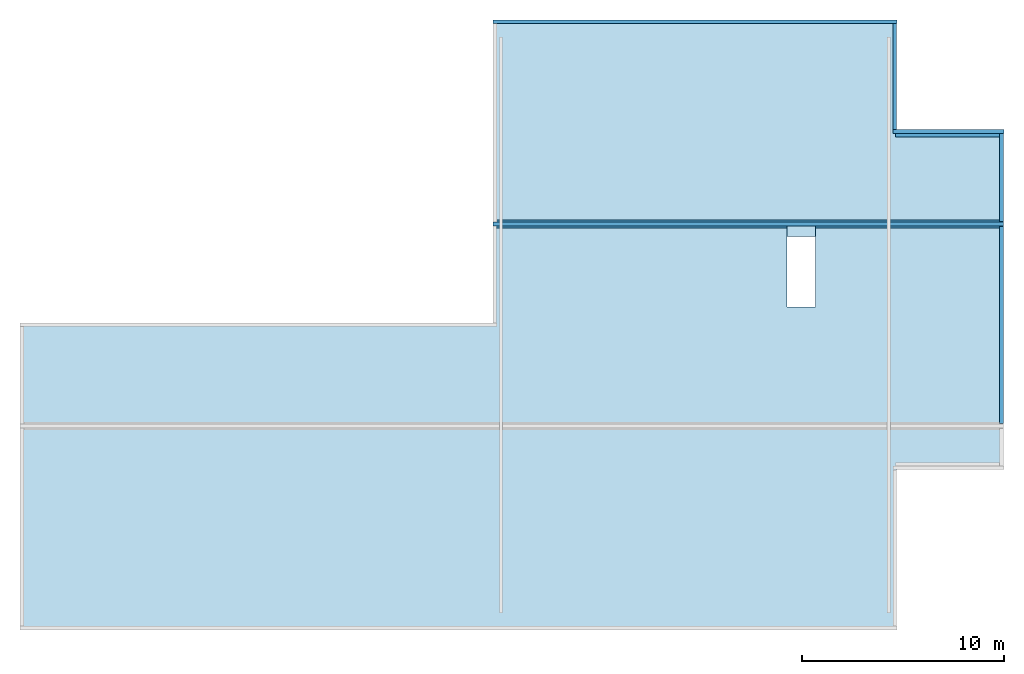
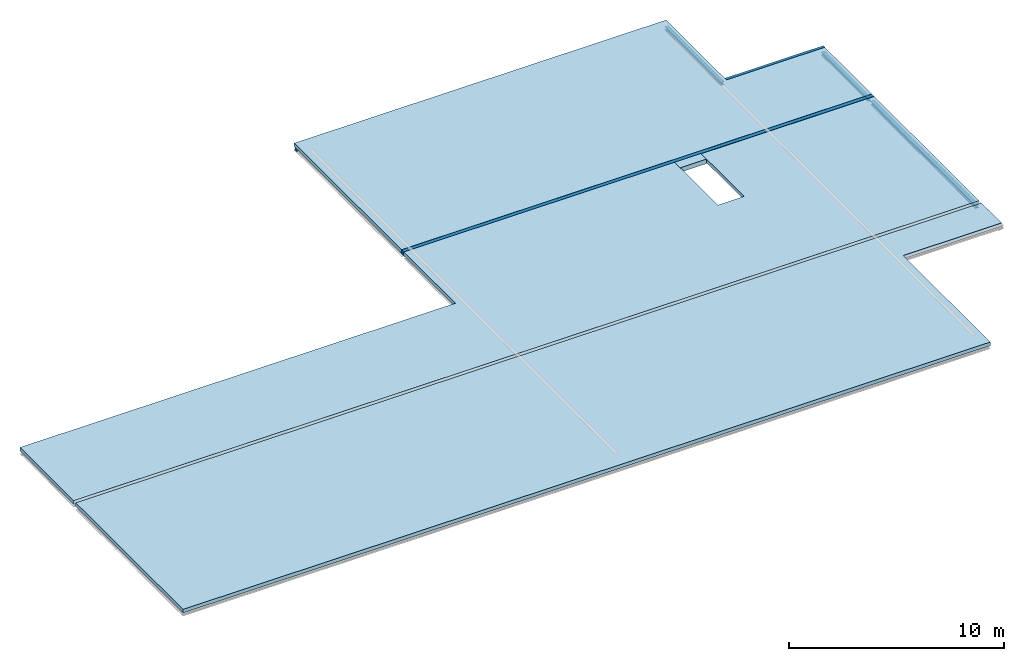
# One storey, part 2 of 2: 6 beams, 4 slabs.
"""IFC2X3 building model written with IfcOpenShell, lengths in millimetres."""

from ifc_helpers import new_model, entity, si_unit, converted_unit, derived_unit, direction, frame, frame_2d, origin, origin_2d_with_axis, place, context, subcontext, project, spatial, polyline, circle_curve, parameter, trimmed, segment, composite_curve, rectangle, i_section, outline, extrude, boolean, source, transform, mapped, material, layer, layer_set, layer_usage, type_object, type_shapes, element, save


model = new_model("IFC2X3")

# Units and contexts
model_context = context("Model", 3, precision=0.01, world=origin(), true_north=direction((6.123031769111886e-17, 1.0)))
body_context = subcontext(model_context, "Body", "Model", "MODEL_VIEW")
ifc_project = project(units=[si_unit("LENGTHUNIT", "METRE", prefix="MILLI"), si_unit("AREAUNIT", "SQUARE_METRE"), si_unit("VOLUMEUNIT", "CUBIC_METRE"), converted_unit("PLANEANGLEUNIT", "DEGREE", entity("IfcPlaneAngleMeasure", 0.017453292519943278), si_unit("PLANEANGLEUNIT", "RADIAN"), dimensions=[0, 0, 0, 0, 0, 0, 0]), si_unit("MASSUNIT", "GRAM", prefix="KILO"), derived_unit("MASSDENSITYUNIT", [(si_unit("MASSUNIT", "GRAM", prefix="KILO"), 1), (si_unit("LENGTHUNIT", "METRE"), -3)]), derived_unit("IONCONCENTRATIONUNIT", [(si_unit("MASSUNIT", "GRAM", prefix="KILO"), 1), (si_unit("LENGTHUNIT", "METRE"), -3)]), derived_unit("MOMENTOFINERTIAUNIT", [(si_unit("LENGTHUNIT", "METRE"), 4)]), si_unit("TIMEUNIT", "SECOND"), si_unit("FREQUENCYUNIT", "HERTZ"), si_unit("THERMODYNAMICTEMPERATUREUNIT", "DEGREE_CELSIUS"), derived_unit("THERMALTRANSMITTANCEUNIT", [(si_unit("MASSUNIT", "GRAM", prefix="KILO"), 1), (si_unit("THERMODYNAMICTEMPERATUREUNIT", "KELVIN"), -1), (si_unit("TIMEUNIT", "SECOND"), -3)]), derived_unit("THERMALCONDUCTANCEUNIT", [(si_unit("MASSUNIT", "GRAM", prefix="KILO"), 1), (si_unit("THERMODYNAMICTEMPERATUREUNIT", "KELVIN"), -1), (si_unit("TIMEUNIT", "SECOND"), -3), (si_unit("LENGTHUNIT", "METRE"), 1)]), derived_unit("VOLUMETRICFLOWRATEUNIT", [(si_unit("LENGTHUNIT", "METRE", prefix="DECI"), 3), (si_unit("TIMEUNIT", "SECOND"), -1)]), derived_unit("MASSFLOWRATEUNIT", [(si_unit("MASSUNIT", "GRAM", prefix="KILO"), 1), (si_unit("TIMEUNIT", "SECOND"), -1)]), derived_unit("ROTATIONALFREQUENCYUNIT", [(si_unit("TIMEUNIT", "SECOND"), -1)]), si_unit("ELECTRICCURRENTUNIT", "AMPERE"), si_unit("ELECTRICVOLTAGEUNIT", "VOLT"), si_unit("POWERUNIT", "WATT"), si_unit("FORCEUNIT", "NEWTON", prefix="KILO"), si_unit("ILLUMINANCEUNIT", "LUX"), si_unit("LUMINOUSFLUXUNIT", "LUMEN"), si_unit("LUMINOUSINTENSITYUNIT", "CANDELA"), si_unit("ENERGYUNIT", "JOULE"), derived_unit("USERDEFINED", [(si_unit("MASSUNIT", "GRAM", prefix="KILO"), -1), (si_unit("LENGTHUNIT", "METRE"), -2), (si_unit("TIMEUNIT", "SECOND"), 3), (si_unit("LUMINOUSFLUXUNIT", "LUMEN"), 1)]), derived_unit("USERDEFINED", [(si_unit("MASSUNIT", "GRAM", prefix="KILO"), 1), (si_unit("TIMEUNIT", "SECOND"), -3), (si_unit("LENGTHUNIT", "METRE"), 3), (si_unit("ELECTRICCURRENTUNIT", "AMPERE"), -2)]), derived_unit("SOUNDPOWERUNIT", [(si_unit("MASSUNIT", "GRAM", prefix="KILO"), 1), (si_unit("TIMEUNIT", "SECOND"), -3), (si_unit("LENGTHUNIT", "METRE"), 2)]), derived_unit("SOUNDPRESSUREUNIT", [(si_unit("MASSUNIT", "GRAM", prefix="KILO"), 1), (si_unit("LENGTHUNIT", "METRE"), -1), (si_unit("TIMEUNIT", "SECOND"), -2)]), derived_unit("LINEARVELOCITYUNIT", [(si_unit("LENGTHUNIT", "METRE"), 1), (si_unit("TIMEUNIT", "SECOND"), -1)]), si_unit("PRESSUREUNIT", "PASCAL"), derived_unit("USERDEFINED", [(si_unit("MASSUNIT", "GRAM", prefix="KILO"), 1), (si_unit("LENGTHUNIT", "METRE"), -2), (si_unit("TIMEUNIT", "SECOND"), -2)]), derived_unit("LINEARFORCEUNIT", [(si_unit("MASSUNIT", "GRAM", prefix="KILO"), 1), (si_unit("TIMEUNIT", "SECOND"), -2)]), derived_unit("PLANARFORCEUNIT", [(si_unit("MASSUNIT", "GRAM", prefix="KILO"), 1), (si_unit("LENGTHUNIT", "METRE"), -1), (si_unit("TIMEUNIT", "SECOND"), -2)]), derived_unit("SPECIFICHEATCAPACITYUNIT", [(si_unit("THERMODYNAMICTEMPERATUREUNIT", "KELVIN"), -1), (si_unit("LENGTHUNIT", "METRE"), 2), (si_unit("TIMEUNIT", "SECOND"), -2)]), derived_unit("HEATFLUXDENSITYUNIT", [(si_unit("MASSUNIT", "GRAM", prefix="KILO"), 1), (si_unit("TIMEUNIT", "SECOND"), -3)]), derived_unit("HEATINGVALUEUNIT", [(si_unit("LENGTHUNIT", "METRE"), 2), (si_unit("TIMEUNIT", "SECOND"), -2)]), derived_unit("VAPORPERMEABILITYUNIT", [(si_unit("LENGTHUNIT", "METRE"), -1), (si_unit("TIMEUNIT", "SECOND"), 1)]), derived_unit("DYNAMICVISCOSITYUNIT", [(si_unit("MASSUNIT", "GRAM", prefix="KILO"), 1), (si_unit("TIMEUNIT", "SECOND"), -1), (si_unit("LENGTHUNIT", "METRE"), -1)]), derived_unit("THERMALEXPANSIONCOEFFICIENTUNIT", [(si_unit("THERMODYNAMICTEMPERATUREUNIT", "KELVIN"), -1)]), derived_unit("MODULUSOFELASTICITYUNIT", [(si_unit("MASSUNIT", "GRAM", prefix="KILO"), 1), (si_unit("LENGTHUNIT", "METRE"), -1), (si_unit("TIMEUNIT", "SECOND"), -2)]), derived_unit("ISOTHERMALMOISTURECAPACITYUNIT", [(si_unit("MASSUNIT", "GRAM", prefix="KILO"), -1), (si_unit("LENGTHUNIT", "METRE"), 3)]), derived_unit("MOISTUREDIFFUSIVITYUNIT", [(si_unit("TIMEUNIT", "SECOND"), -1), (si_unit("LENGTHUNIT", "METRE"), 2)]), derived_unit("MASSPERLENGTHUNIT", [(si_unit("MASSUNIT", "GRAM", prefix="KILO"), 1), (si_unit("LENGTHUNIT", "METRE"), -1)]), derived_unit("THERMALRESISTANCEUNIT", [(si_unit("MASSUNIT", "GRAM", prefix="KILO"), -1), (si_unit("TIMEUNIT", "SECOND"), 3), (si_unit("THERMODYNAMICTEMPERATUREUNIT", "KELVIN"), 1)]), derived_unit("ACCELERATIONUNIT", [(si_unit("LENGTHUNIT", "METRE"), 1), (si_unit("TIMEUNIT", "SECOND"), -2)]), derived_unit("ANGULARVELOCITYUNIT", [(si_unit("TIMEUNIT", "SECOND"), -1), (si_unit("PLANEANGLEUNIT", "RADIAN"), 1)]), derived_unit("LINEARSTIFFNESSUNIT", [(si_unit("MASSUNIT", "GRAM", prefix="KILO"), 1), (si_unit("TIMEUNIT", "SECOND"), -2)]), derived_unit("WARPINGCONSTANTUNIT", [(si_unit("LENGTHUNIT", "METRE"), 6)]), derived_unit("LINEARMOMENTUNIT", [(si_unit("MASSUNIT", "GRAM", prefix="KILO"), 1), (si_unit("LENGTHUNIT", "METRE"), 1), (si_unit("TIMEUNIT", "SECOND"), -2)]), derived_unit("TORQUEUNIT", [(si_unit("MASSUNIT", "GRAM", prefix="KILO"), 1), (si_unit("LENGTHUNIT", "METRE"), 2), (si_unit("TIMEUNIT", "SECOND"), -2)])], contexts=[model_context])

# Site, building, storey
site_placement = place(None, origin())
site = spatial("IfcSite", under=ifc_project, at=site_placement, Name="Default", CompositionType="ELEMENT")
building_placement = place(site_placement, origin())
building = spatial("IfcBuilding", under=site, at=building_placement, CompositionType="ELEMENT")
storey_placement = place(building_placement, frame((0.0, 0.0, 7750.0)))
storey = spatial("IfcBuildingStorey", under=building, at=storey_placement, Name="02 tweede verdieping", CompositionType="ELEMENT", Elevation=7750.0)

# Beams
ifc_material_1 = material(Name="VRI_staal")
beam_type_1 = type_object("IfcBeamType", Name="28_SFR_VRI_balk_staal_H:HEB180", PredefinedType="NOTDEFINED")
beam_1_placement = place(storey_placement, frame((33400.0, 40000.0, -205.0)))
element("IfcBeam", 1, at=beam_1_placement, inside=storey, type_object=beam_type_1, material=ifc_material_1, Name="28_SFR_VRI_balk_staal_H:HEB180", ObjectType="28_SFR_VRI_balk_staal_H:HEB180", context=body_context, shape_type="SweptSolid", body=[
    extrude(outline(composite_curve([segment(polyline([(76.0, -90.0), (90.0, -90.0)]), True, "CONTINUOUS"), segment(polyline([(90.0, -90.0), (90.0, 90.0)]), True, "CONTINUOUS"), segment(polyline([(90.0, 90.0), (76.0, 90.0)]), True, "CONTINUOUS"), segment(polyline([(76.0, 90.0), (76.0, 19.249999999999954)]), True, "CONTINUOUS"), segment(trimmed(circle_curve(frame_2d((61.0, 19.249999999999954), x_axis=(1.0, 0.0)), 14.999999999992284), [parameter(269.99999999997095)], [parameter(0.0)], True, "PARAMETER"), False, "CONTINUOUS"), segment(polyline([(61.0, 4.249999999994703), (-61.0, 4.249999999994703)]), True, "CONTINUOUS"), segment(trimmed(circle_curve(frame_2d((-61.0, 19.249999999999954), x_axis=(0.0, -1.0)), 14.999999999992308), [parameter(269.99999999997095)], [parameter(0.0)], True, "PARAMETER"), False, "CONTINUOUS"), segment(polyline([(-76.0, 19.249999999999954), (-76.0, 90.0)]), True, "CONTINUOUS"), segment(polyline([(-76.0, 90.0), (-90.0, 90.0)]), True, "CONTINUOUS"), segment(polyline([(-90.0, 90.0), (-90.0, -90.0)]), True, "CONTINUOUS"), segment(polyline([(-90.0, -90.0), (-76.0, -90.0)]), True, "CONTINUOUS"), segment(polyline([(-76.0, -90.0), (-76.0, -19.249999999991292)]), True, "CONTINUOUS"), segment(trimmed(circle_curve(frame_2d((-61.0, -19.249999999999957), x_axis=(-1.0, 0.0)), 14.9999999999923), [parameter(269.99999999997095)], [parameter(0.0)], True, "PARAMETER"), False, "CONTINUOUS"), segment(polyline([(-61.0, -4.250000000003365), (61.0, -4.250000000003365)]), True, "CONTINUOUS"), segment(trimmed(circle_curve(frame_2d((61.0, -19.249999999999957), x_axis=(0.0, 1.0)), 14.999999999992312), [parameter(269.99999999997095)], [parameter(0.0)], True, "PARAMETER"), False, "CONTINUOUS"), segment(polyline([(76.0, -19.249999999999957), (76.0, -90.0)]), True, "CONTINUOUS")], self_intersect=False)), frame((-100.0, 0.0, -90.0), z_axis=(1.0, 0.0, 0.0), x_axis=(0.0, 0.0, -1.0)), (0.0, 0.0, 1.0), 20000.0),
])
beam_2_placement = place(storey_placement, frame((58475.0, 30000.0, -205.0), z_axis=(0.0, 0.0, 1.0), x_axis=(0.0, 1.0, 0.0)))
element("IfcBeam", 2, at=beam_2_placement, inside=storey, type_object=beam_type_1, material=ifc_material_1, Name="28_SFR_VRI_balk_staal_H:HEB180", ObjectType="28_SFR_VRI_balk_staal_H:HEB180", context=body_context, shape_type="SweptSolid", body=[
    extrude(outline(composite_curve([segment(polyline([(76.0, -90.0), (90.0, -90.0)]), True, "CONTINUOUS"), segment(polyline([(90.0, -90.0), (90.0, 90.0)]), True, "CONTINUOUS"), segment(polyline([(90.0, 90.0), (76.0, 90.0)]), True, "CONTINUOUS"), segment(polyline([(76.0, 90.0), (76.0, 19.24999999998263)]), True, "CONTINUOUS"), segment(trimmed(circle_curve(frame_2d((61.0, 19.24999999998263), x_axis=(1.0, 0.0)), 14.999999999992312), [parameter(269.99999999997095)], [parameter(0.0)], True, "PARAMETER"), False, "CONTINUOUS"), segment(polyline([(61.0, 4.249999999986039), (-61.0, 4.249999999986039)]), True, "CONTINUOUS"), segment(trimmed(circle_curve(frame_2d((-61.0, 19.24999999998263), x_axis=(0.0, -1.0)), 14.9999999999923), [parameter(269.99999999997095)], [parameter(0.0)], True, "PARAMETER"), False, "CONTINUOUS"), segment(polyline([(-76.0, 19.24999999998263), (-76.0, 90.0)]), True, "CONTINUOUS"), segment(polyline([(-76.0, 90.0), (-90.0, 90.0)]), True, "CONTINUOUS"), segment(polyline([(-90.0, 90.0), (-90.0, -90.0)]), True, "CONTINUOUS"), segment(polyline([(-90.0, -90.0), (-76.0, -90.0)]), True, "CONTINUOUS"), segment(polyline([(-76.0, -90.0), (-76.0, -19.25000000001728)]), True, "CONTINUOUS"), segment(trimmed(circle_curve(frame_2d((-61.0, -19.25000000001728), x_axis=(-1.0, 0.0)), 14.999999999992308), [parameter(269.99999999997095)], [parameter(0.0)], True, "PARAMETER"), False, "CONTINUOUS"), segment(polyline([(-61.0, -4.250000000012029), (61.0, -4.250000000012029)]), True, "CONTINUOUS"), segment(trimmed(circle_curve(frame_2d((61.0, -19.25000000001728), x_axis=(0.0, 1.0)), 14.999999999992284), [parameter(269.99999999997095)], [parameter(0.0)], True, "PARAMETER"), False, "CONTINUOUS"), segment(polyline([(76.0, -19.250000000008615), (76.0, -90.0)]), True, "CONTINUOUS")], self_intersect=False)), frame((125.0, 0.0, -90.0), z_axis=(1.0, 0.0, 0.0), x_axis=(0.0, 0.0, -1.0)), (0.0, 0.0, 1.0), 4359.999999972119),
])
beam_3_placement = place(storey_placement, frame((53200.0, 40000.0, -205.0), z_axis=(0.0, 0.0, 1.0), x_axis=(0.0, -1.0, 0.0)))
element("IfcBeam", 3, at=beam_3_placement, inside=storey, type_object=beam_type_1, material=ifc_material_1, Name="28_SFR_VRI_balk_staal_H:HEB180", ObjectType="28_SFR_VRI_balk_staal_H:HEB180", context=body_context, shape_type="SweptSolid", body=[
    extrude(outline(composite_curve([segment(polyline([(76.0, -90.0), (90.0, -90.0)]), True, "CONTINUOUS"), segment(polyline([(90.0, -90.0), (90.0, 90.0)]), True, "CONTINUOUS"), segment(polyline([(90.0, 90.0), (76.0, 90.0)]), True, "CONTINUOUS"), segment(polyline([(76.0, 90.0), (76.0, 19.249999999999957)]), True, "CONTINUOUS"), segment(trimmed(circle_curve(frame_2d((61.0, 19.249999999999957), x_axis=(1.0, 0.0)), 14.999999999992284), [parameter(269.99999999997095)], [parameter(0.0)], True, "PARAMETER"), False, "CONTINUOUS"), segment(polyline([(61.0, 4.249999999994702), (-61.0, 4.249999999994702)]), True, "CONTINUOUS"), segment(trimmed(circle_curve(frame_2d((-61.0, 19.249999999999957), x_axis=(0.0, -1.0)), 14.999999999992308), [parameter(269.99999999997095)], [parameter(0.0)], True, "PARAMETER"), False, "CONTINUOUS"), segment(polyline([(-76.0, 19.249999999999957), (-76.0, 90.0)]), True, "CONTINUOUS"), segment(polyline([(-76.0, 90.0), (-90.0, 90.0)]), True, "CONTINUOUS"), segment(polyline([(-90.0, 90.0), (-90.0, -90.0)]), True, "CONTINUOUS"), segment(polyline([(-90.0, -90.0), (-76.0, -90.0)]), True, "CONTINUOUS"), segment(polyline([(-76.0, -90.0), (-76.0, -19.249999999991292)]), True, "CONTINUOUS"), segment(trimmed(circle_curve(frame_2d((-61.0, -19.249999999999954), x_axis=(-1.0, 0.0)), 14.9999999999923), [parameter(269.99999999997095)], [parameter(0.0)], True, "PARAMETER"), False, "CONTINUOUS"), segment(polyline([(-61.0, -4.250000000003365), (61.0, -4.250000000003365)]), True, "CONTINUOUS"), segment(trimmed(circle_curve(frame_2d((61.0, -19.249999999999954), x_axis=(0.0, 1.0)), 14.999999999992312), [parameter(269.99999999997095)], [parameter(0.0)], True, "PARAMETER"), False, "CONTINUOUS"), segment(polyline([(76.0, -19.249999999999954), (76.0, -90.0)]), True, "CONTINUOUS")], self_intersect=False)), frame((90.0, 0.0, -90.0), z_axis=(1.0, 0.0, 0.0), x_axis=(0.0, 0.0, -1.0)), (0.0, 0.0, 1.0), 5235.000000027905),
])
beam_type_2 = type_object("IfcBeamType", Name="28_SFR_VRI_balk_staal_THQ:THQ200x8-190x20-400x20", PredefinedType="NOTDEFINED")
beam_4_placement = place(storey_placement, frame((33400.0, 30000.0, -5.0)))
element("IfcBeam", 4, at=beam_4_placement, inside=storey, type_object=beam_type_2, material=ifc_material_1, Name="28_SFR_VRI_balk_staal_THQ:THQ200x8-190x20-400x20", ObjectType="28_SFR_VRI_balk_staal_THQ:THQ200x8-190x20-400x20", context=body_context, shape_type="SweptSolid", body=[
    boolean("DIFFERENCE", extrude(outline(polyline([(45.0, -200.0), (65.0, -200.0), (65.0, 200.0), (45.0, 200.0), (45.0, 103.0), (-155.0, 103.0), (-155.0, -103.0), (45.0, -103.0), (45.0, -200.0)])), frame((-100.0, 0.0, -155.0), z_axis=(1.0, 0.0, 0.0), x_axis=(0.0, 0.0, -1.0)), (0.0, 0.0, 1.0), 25275.000000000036), extrude(rectangle(XDim=180.0000000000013, YDim=190.0000000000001, at=frame_2d((0.0, 5.400124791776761e-13), x_axis=(0.0, 1.0))), frame((25175.0, 0.0, -110.0), z_axis=(-1.0, 0.0, 0.0), x_axis=(0.0, 1.0, 0.0)), (0.0, 0.0, 1.0), 25275.000000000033)),
])
beam_type_3 = type_object("IfcBeamType", Name="28_SFR_VRI_balk_staal_SFB_eenzijdiig:HEB180_340x15", PredefinedType="BEAM", material=ifc_material_1)
shared_shape = source(origin(), body_context, "Body", "SweptSolid", [
    extrude(i_section(OverallWidth=180.00000000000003, OverallDepth=179.99999999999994, WebThickness=8.500000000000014, FlangeThickness=14.000000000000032, FilletRadius=15.000000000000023, at=frame_2d((2.1316282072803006e-14, 0.0), x_axis=(0.0, 1.0))), frame((-2737.499999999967, 0.0, 0.0), z_axis=(1.0, 0.0, 0.0), x_axis=(0.0, 0.0, -1.0)), (0.0, 0.0, 1.0), 5499.999999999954),
    extrude(rectangle(XDim=15.00000000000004, YDim=339.99999999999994, at=origin_2d_with_axis()), frame((-2617.499999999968, -105.0, -97.5), z_axis=(1.0, 0.0, 0.0), x_axis=(0.0, 0.0, -1.0)), (0.0, 0.0, 1.0), 5259.999999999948),
])
type_shapes(beam_type_3, [shared_shape])
beam_5_placement = place(storey_placement, frame((55837.50000000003, 34575.0, -115.0)))
element("IfcBeam", 5, at=beam_5_placement, inside=storey, type_object=beam_type_3, material=ifc_material_1, Name="28_SFR_VRI_balk_staal_SFB_eenzijdiig:HEB180_340x15", ObjectType="28_SFR_VRI_balk_staal_SFB_eenzijdiig:HEB180_340x15", context=body_context, shape_type="MappedRepresentation", body=[
    mapped(shared_shape, transform((0.0, 0.0, 0.0), scale=1.0)),
])
beam_type_4 = type_object("IfcBeamType", Name="28_SFR_VRI_balk_staal_H:HEB200", PredefinedType="NOTDEFINED")
beam_6_placement = place(storey_placement, frame((58475.0, 30000.0, -205.0), z_axis=(0.0, 0.0, 1.0), x_axis=(0.0, -1.0, 0.0)))
element("IfcBeam", 6, at=beam_6_placement, inside=storey, type_object=beam_type_4, material=ifc_material_1, Name="28_SFR_VRI_balk_staal_H:HEB200", ObjectType="28_SFR_VRI_balk_staal_H:HEB200", context=body_context, shape_type="SweptSolid", body=[
    extrude(outline(composite_curve([segment(polyline([(85.0, -100.0), (100.0, -100.0)]), True, "CONTINUOUS"), segment(polyline([(100.0, -100.0), (100.0, 100.0)]), True, "CONTINUOUS"), segment(polyline([(100.0, 100.0), (85.0, 100.0)]), True, "CONTINUOUS"), segment(polyline([(85.0, 100.0), (85.0, 22.500000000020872)]), True, "CONTINUOUS"), segment(trimmed(circle_curve(frame_2d((67.0, 22.500000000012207), x_axis=(1.0, 0.0)), 17.999999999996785), [parameter(269.9999999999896)], [parameter(0.0)], True, "PARAMETER"), False, "CONTINUOUS"), segment(polyline([(67.0, 4.5000000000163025), (-67.0, 4.5000000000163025)]), True, "CONTINUOUS"), segment(trimmed(circle_curve(frame_2d((-67.0, 22.500000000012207), x_axis=(0.0, -1.0)), 17.9999999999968), [parameter(269.9999999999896)], [parameter(0.0)], True, "PARAMETER"), False, "CONTINUOUS"), segment(polyline([(-85.0, 22.500000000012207), (-85.0, 100.0)]), True, "CONTINUOUS"), segment(polyline([(-85.0, 100.0), (-100.0, 100.0)]), True, "CONTINUOUS"), segment(polyline([(-100.0, 100.0), (-100.0, -100.0)]), True, "CONTINUOUS"), segment(polyline([(-100.0, -100.0), (-85.0, -100.0)]), True, "CONTINUOUS"), segment(polyline([(-85.0, -100.0), (-85.0, -22.499999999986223)]), True, "CONTINUOUS"), segment(trimmed(circle_curve(frame_2d((-67.0, -22.499999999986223), x_axis=(-1.0, 0.0)), 17.9999999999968), [parameter(269.9999999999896)], [parameter(0.0)], True, "PARAMETER"), False, "CONTINUOUS"), segment(polyline([(-67.0, -4.499999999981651), (67.0, -4.499999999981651)]), True, "CONTINUOUS"), segment(trimmed(circle_curve(frame_2d((67.0, -22.499999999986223), x_axis=(0.0, 1.0)), 17.999999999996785), [parameter(269.9999999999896)], [parameter(0.0)], True, "PARAMETER"), False, "CONTINUOUS"), segment(polyline([(85.0, -22.499999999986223), (85.0, -100.0)]), True, "CONTINUOUS")], self_intersect=False)), frame((125.0, 0.0, -100.0), z_axis=(1.0, 0.0, 0.0), x_axis=(0.0, 0.0, -1.0)), (0.0, 0.0, 1.0), 9750.000000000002),
])

# Slabs
ifc_material_2 = material(Name="VRI_beton_kanaalplaat")
ifc_layer_1 = layer(ifc_material_2, 200.0)
ifc_layer_set_1 = layer_set([ifc_layer_1], Name="Floor:23_FL_VRI_kanaalplaatvloer_200")
ifc_layer_usage_1 = layer_usage(ifc_layer_set_1, "AXIS3", "POSITIVE", 0.0)
slab_type_1 = type_object("IfcSlabType", Name="Floor:23_FL_VRI_kanaalplaatvloer_200", PredefinedType="FLOOR", material=ifc_layer_set_1)
slab_1_placement = place(storey_placement, frame((9900.0, 9910.0, -200.0)))
element("IfcSlab", 7, at=slab_1_placement, inside=storey, type_object=slab_type_1, material=ifc_layer_usage_1, Name="Floor:23_FL_VRI_kanaalplaatvloer_200", ObjectType="Floor:23_FL_VRI_kanaalplaatvloer_200", PredefinedType="FLOOR", context=body_context, shape_type="SweptSolid", body=[
    extrude(outline(polyline([(24337.499999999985, 90.0), (937.5000000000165, 90.0), (937.5000000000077, 4897.0), (-13625.499999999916, 4897.0), (-13625.499999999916, 875.0), (-15037.499999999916, 875.0), (-15037.499999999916, 4875.0), (-24337.499999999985, 4875.0), (-24337.499999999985, -4900.0), (24337.499999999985, -4900.0), (24337.499999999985, 90.0)])), frame((24337.49999999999, 15090.0, 200.0), z_axis=(0.0, 0.0, -1.0), x_axis=(-1.0, 0.0, 0.0)), (0.0, 0.0, 1.0), 200.0),
])
slab_2_placement = place(storey_placement, frame((9900.0, 9910.0, -200.0)))
element("IfcSlab", 8, at=slab_2_placement, inside=storey, type_object=slab_type_1, material=ifc_layer_usage_1, Name="Floor:23_FL_VRI_kanaalplaatvloer_200:2", ObjectType="Floor:23_FL_VRI_kanaalplaatvloer_200", PredefinedType="FLOOR", context=body_context, shape_type="SweptSolid", body=[
    extrude(outline(polyline([(-19052.499999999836, -15090.0), (24337.499999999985, -15090.0), (24337.499999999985, -5100.0), (-24337.499999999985, -5100.0), (-24337.499999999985, -6980.0), (-19052.499999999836, -6980.0), (-19052.499999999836, -15090.0)])), frame((24337.49999999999, 15090.0, 200.0), z_axis=(0.0, 0.0, -1.0), x_axis=(-1.0, 0.0, 0.0)), (0.0, 0.0, 1.0), 200.0),
])
slab_3_placement = place(storey_placement, frame((9900.0, 9910.0, -200.0)))
element("IfcSlab", 9, at=slab_3_placement, inside=storey, type_object=slab_type_1, material=ifc_layer_usage_1, Name="Floor:23_FL_VRI_kanaalplaatvloer_200:3", ObjectType="Floor:23_FL_VRI_kanaalplaatvloer_200", PredefinedType="FLOOR", context=body_context, shape_type="SweptSolid", body=[
    extrude(outline(polyline([(937.4999999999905, 15090.0), (-19052.499999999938, 15090.0), (-19052.499999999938, 9480.0), (-24337.499999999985, 9480.0), (-24337.499999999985, 5103.0), (937.5000000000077, 5103.0), (937.4999999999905, 15090.0)])), frame((24337.49999999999, 15090.0, 200.0), z_axis=(0.0, 0.0, -1.0), x_axis=(-1.0, 0.0, 0.0)), (0.0, 0.0, 1.0), 200.0),
])
ifc_material_3 = material(Name="VRI_beton_ihwg")
ifc_layer_2 = layer(ifc_material_3, 260.0)
ifc_layer_set_2 = layer_set([ifc_layer_2], Name="Floor:23_FL_VRI_betonvloer_260")
ifc_layer_usage_2 = layer_usage(ifc_layer_set_2, "AXIS3", "POSITIVE", 0.0)
slab_type_2 = type_object("IfcSlabType", Name="Floor:23_FL_VRI_betonvloer_260", PredefinedType="FLOOR", material=ifc_layer_set_2)
slab_4_placement = place(storey_placement, origin())
element("IfcSlab", 10, at=slab_4_placement, inside=storey, type_object=slab_type_2, material=ifc_layer_usage_2, Name="Floor:23_FL_VRI_betonvloer_260", ObjectType="Floor:23_FL_VRI_betonvloer_260", PredefinedType="FLOOR", context=body_context, shape_type="SweptSolid", body=[
    extrude(rectangle(XDim=522.0000000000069, YDim=1411.9999999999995, at=frame_2d((-2.1600499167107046e-12, -4.320099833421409e-12), x_axis=(1.0, 0.0))), frame((48569.0, 29636.0, 0.0), z_axis=(0.0, 0.0, -1.0), x_axis=(0.0, 1.0, 0.0)), (0.0, 0.0, 1.0), 260.00000000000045),
])

save(model, "model.ifc")
